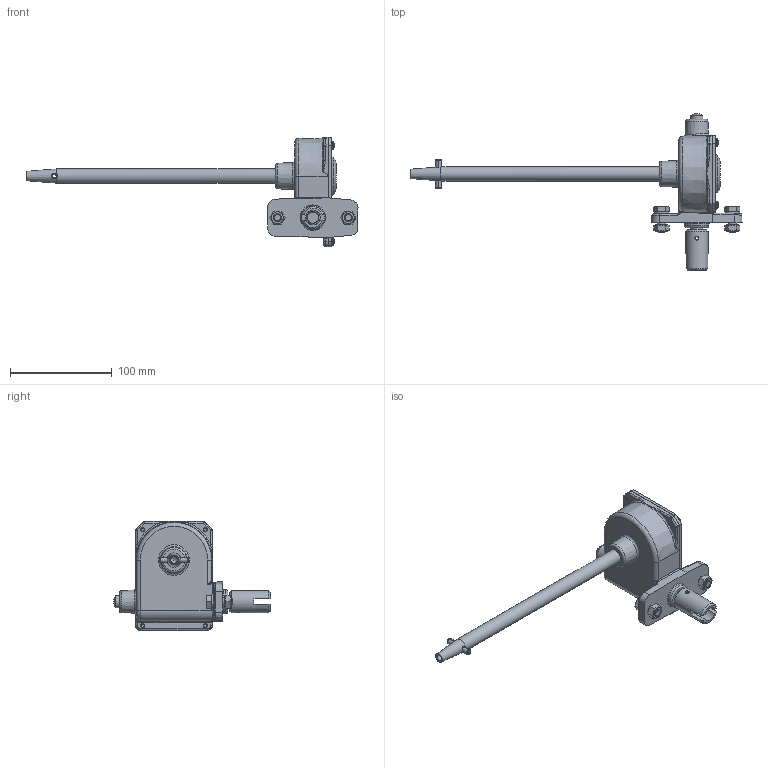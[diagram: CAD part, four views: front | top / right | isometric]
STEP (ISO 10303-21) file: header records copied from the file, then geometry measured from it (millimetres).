
FILE_DESCRIPTION(/* description */ (''),/* implementation_level */ '2;1');
FILE_NAME(/* name */ 'C:\Users\Safar Abadi\Desktop\Gearbox.stp',/* time_stamp */ '2018-11-20T13:12:43+04:00',/* author */ ('Safar Abadi'),/* organization */ (''),/* preprocessor_version */ 'ST-DEVELOPER v16.13',/* originating_system */ 'Autodesk Inventor 2018',/* authorisation */ '');
FILE_SCHEMA (('AUTOMOTIVE_DESIGN { 1 0 10303 214 3 1 1 }'));
Products named in the file (1): Gearbox
Bounding box: 326.69 x 154 x 107.5 mm (x, y, z)
Volume: 244414.4 mm3; surface area: 119516.8 mm2
Topology: 83 solids, 83 shells, 2747 faces, 7369 edges, 4883 vertices
Faces by surface type: bspline 1246, plane 1139, cylinder 187, cone 120, torus 50, sphere 5
Full cylindrical faces by diameter (mm): 3.242 x4, 3.621 x4, 4 x11, 4.3 x4, 5 x4, 6.647 x3, 8 x2, 12 x4, 12.05 x1, 12.1 x1, 14 x3, 14.3 x1, 18 x1, 22 x1, 28 x2
Entity records: 100778 total; most frequent: CARTESIAN_POINT 37910, ORIENTED_EDGE 14398, DIRECTION 8451, EDGE_CURVE 7199, VERTEX_POINT 4845, LINE 3719, VECTOR 3719, EDGE_LOOP 3090
